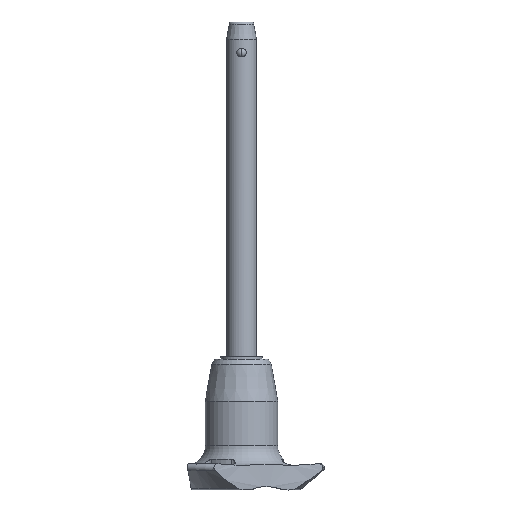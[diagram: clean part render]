
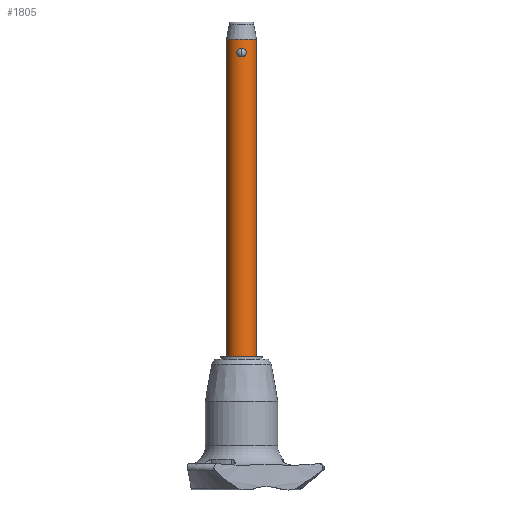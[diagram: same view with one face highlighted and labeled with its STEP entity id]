
A CAD part, front view. The second image highlights one B-rep face of the part: STEP entity #1805.
In plain terms, the highlighted cylindrical face has radius 3 mm (diameter 6 mm), a partial arc.
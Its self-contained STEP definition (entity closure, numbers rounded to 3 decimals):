
#24 = VERTEX_POINT ( 'NONE', #2113 ) ;
#68 = CARTESIAN_POINT ( 'NONE',  ( -0.46, -2.967, 0.101 ) ) ;
#155 = CARTESIAN_POINT ( 'NONE',  ( 0., 0., -60. ) ) ;
#156 = CARTESIAN_POINT ( 'NONE',  ( 0.937, -2.85, 0.744 ) ) ;
#175 = ORIENTED_EDGE ( 'NONE', *, *, #678, .F. ) ;
#247 = AXIS2_PLACEMENT_3D ( 'NONE', #155, #1060, #2348 ) ;
#300 = DIRECTION ( 'NONE',  ( 0., 0., -1. ) ) ;
#336 = CARTESIAN_POINT ( 'NONE',  ( 0.238, -2.993, 0.021 ) ) ;
#353 = CARTESIAN_POINT ( 'NONE',  ( 0.738, -2.909, 0.317 ) ) ;
#364 = CARTESIAN_POINT ( 'NONE',  ( 0.911, -2.859, 1.103 ) ) ;
#383 = ORIENTED_EDGE ( 'NONE', *, *, #731, .F. ) ;
#464 = CARTESIAN_POINT ( 'NONE',  ( 3., 0., -60. ) ) ;
#466 = CARTESIAN_POINT ( 'NONE',  ( -0.563, -2.948, 1.57 ) ) ;
#499 = CARTESIAN_POINT ( 'NONE',  ( -0.118, -3., 0. ) ) ;
#545 = CARTESIAN_POINT ( 'NONE',  ( 0.937, -2.85, 0.985 ) ) ;
#581 = CARTESIAN_POINT ( 'NONE',  ( -3., 0., -60. ) ) ;
#592 = DIRECTION ( 'NONE',  ( 1., 0., 0. ) ) ;
#678 = EDGE_CURVE ( 'NONE', #24, #2689, #883, .T. ) ;
#694 = CARTESIAN_POINT ( 'NONE',  ( -0.238, -2.993, 1.712 ) ) ;
#698 = CARTESIAN_POINT ( 'NONE',  ( 3., 0., 3.5 ) ) ;
#706 = CARTESIAN_POINT ( 'NONE',  ( -0.739, -2.909, 1.414 ) ) ;
#731 = EDGE_CURVE ( 'NONE', #1213, #1368, #1604, .T. ) ;
#740 = CARTESIAN_POINT ( 'NONE',  ( 0.118, -3., 0. ) ) ;
#765 = DIRECTION ( 'NONE',  ( 0., 0., 1. ) ) ;
#883 = B_SPLINE_CURVE_WITH_KNOTS ( 'NONE', 3,
 ( #2643, #740, #336, #1146, #1778, #353, #2457, #1820, #156, #545, #364, #1392, #1361, #954, #2667, #2442, #2210, #2238 ),
 .UNSPECIFIED., .F., .F.,
 ( 4, 2, 2, 2, 2, 2, 2, 2, 4 ),
 ( 0.003, 0.003, 0.004, 0.004, 0.004, 0.005, 0.005, 0.005, 0.006 ),
 .UNSPECIFIED. ) ;
#897 = CARTESIAN_POINT ( 'NONE',  ( -3., 0., -60. ) ) ;
#914 = EDGE_LOOP ( 'NONE', ( #1285, #175 ) ) ;
#954 = CARTESIAN_POINT ( 'NONE',  ( 0.564, -2.948, 1.57 ) ) ;
#993 = CIRCLE ( 'NONE', #2319, 3. ) ;
#998 = EDGE_LOOP ( 'NONE', ( #383, #1843, #2187, #1027 ) ) ;
#1016 = CARTESIAN_POINT ( 'NONE',  ( 0., 0., 3.5 ) ) ;
#1027 = ORIENTED_EDGE ( 'NONE', *, *, #1779, .T. ) ;
#1060 = DIRECTION ( 'NONE',  ( 0., 0., 1. ) ) ;
#1090 = CARTESIAN_POINT ( 'NONE',  ( -3., 0., 3.5 ) ) ;
#1096 = CARTESIAN_POINT ( 'NONE',  ( -0.74, -2.909, 0.318 ) ) ;
#1146 = CARTESIAN_POINT ( 'NONE',  ( 0.459, -2.967, 0.101 ) ) ;
#1153 = CARTESIAN_POINT ( 'NONE',  ( -0.12, -3., 1.732 ) ) ;
#1213 = VERTEX_POINT ( 'NONE', #897 ) ;
#1222 = EDGE_CURVE ( 'NONE', #2689, #24, #2660, .T. ) ;
#1285 = ORIENTED_EDGE ( 'NONE', *, *, #1222, .F. ) ;
#1301 = CARTESIAN_POINT ( 'NONE',  ( -0.937, -2.85, 0.986 ) ) ;
#1310 = CARTESIAN_POINT ( 'NONE',  ( 3., 0., -60. ) ) ;
#1338 = DIRECTION ( 'NONE',  ( 1., 0., 0. ) ) ;
#1343 = CARTESIAN_POINT ( 'NONE',  ( -0.91, -2.859, 1.105 ) ) ;
#1361 = CARTESIAN_POINT ( 'NONE',  ( 0.74, -2.909, 1.414 ) ) ;
#1368 = VERTEX_POINT ( 'NONE', #1090 ) ;
#1392 = CARTESIAN_POINT ( 'NONE',  ( 0.812, -2.888, 1.317 ) ) ;
#1439 = EDGE_CURVE ( 'NONE', #2485, #1658, #2544, .T. ) ;
#1520 = VECTOR ( 'NONE', #765, 1000. ) ;
#1524 = CARTESIAN_POINT ( 'NONE',  ( -0.911, -2.859, 0.63 ) ) ;
#1540 = CARTESIAN_POINT ( 'NONE',  ( -0.238, -2.993, 0.021 ) ) ;
#1553 = CARTESIAN_POINT ( 'NONE',  ( -0.811, -2.889, 1.319 ) ) ;
#1567 = CARTESIAN_POINT ( 'NONE',  ( 0., -3., 1.732 ) ) ;
#1603 = FACE_OUTER_BOUND ( 'NONE', #998, .T. ) ;
#1604 = LINE ( 'NONE', #581, #1520 ) ;
#1658 = VERTEX_POINT ( 'NONE', #698 ) ;
#1778 = CARTESIAN_POINT ( 'NONE',  ( 0.563, -2.948, 0.162 ) ) ;
#1779 = EDGE_CURVE ( 'NONE', #1658, #1368, #2363, .T. ) ;
#1794 = VECTOR ( 'NONE', #2566, 1000. ) ;
#1805 = ADVANCED_FACE ( 'NONE', ( #1603, #2441 ), #2028, .T. ) ;
#1820 = CARTESIAN_POINT ( 'NONE',  ( 0.91, -2.859, 0.626 ) ) ;
#1843 = ORIENTED_EDGE ( 'NONE', *, *, #2572, .F. ) ;
#1934 = CARTESIAN_POINT ( 'NONE',  ( -0.564, -2.948, 0.162 ) ) ;
#2028 = CYLINDRICAL_SURFACE ( 'NONE', #247, 3. ) ;
#2056 = DIRECTION ( 'NONE',  ( 0., 0., -1. ) ) ;
#2113 = CARTESIAN_POINT ( 'NONE',  ( 0., -3., 0. ) ) ;
#2143 = CARTESIAN_POINT ( 'NONE',  ( -0.812, -2.889, 0.414 ) ) ;
#2187 = ORIENTED_EDGE ( 'NONE', *, *, #1439, .T. ) ;
#2210 = CARTESIAN_POINT ( 'NONE',  ( 0.12, -3., 1.732 ) ) ;
#2238 = CARTESIAN_POINT ( 'NONE',  ( 0., -3., 1.732 ) ) ;
#2319 = AXIS2_PLACEMENT_3D ( 'NONE', #2635, #300, #1338 ) ;
#2348 = DIRECTION ( 'NONE',  ( 1., 0., 0. ) ) ;
#2363 = CIRCLE ( 'NONE', #2489, 3. ) ;
#2376 = CARTESIAN_POINT ( 'NONE',  ( 0., -3., 0. ) ) ;
#2416 = CARTESIAN_POINT ( 'NONE',  ( 0., -3., 1.732 ) ) ;
#2441 = FACE_BOUND ( 'NONE', #914, .T. ) ;
#2442 = CARTESIAN_POINT ( 'NONE',  ( 0.238, -2.993, 1.712 ) ) ;
#2457 = CARTESIAN_POINT ( 'NONE',  ( 0.811, -2.889, 0.412 ) ) ;
#2485 = VERTEX_POINT ( 'NONE', #464 ) ;
#2489 = AXIS2_PLACEMENT_3D ( 'NONE', #1016, #2056, #592 ) ;
#2544 = LINE ( 'NONE', #1310, #1794 ) ;
#2561 = CARTESIAN_POINT ( 'NONE',  ( -0.461, -2.967, 1.63 ) ) ;
#2566 = DIRECTION ( 'NONE',  ( 0., 0., 1. ) ) ;
#2572 = EDGE_CURVE ( 'NONE', #2485, #1213, #993, .T. ) ;
#2590 = CARTESIAN_POINT ( 'NONE',  ( -0.937, -2.85, 0.749 ) ) ;
#2635 = CARTESIAN_POINT ( 'NONE',  ( 0., 0., -60. ) ) ;
#2643 = CARTESIAN_POINT ( 'NONE',  ( 0., -3., 0. ) ) ;
#2660 = B_SPLINE_CURVE_WITH_KNOTS ( 'NONE', 3,
 ( #2416, #1153, #694, #2561, #466, #706, #1553, #1343, #1301, #2590, #1524, #2143, #1096, #1934, #68, #1540, #499, #2376 ),
 .UNSPECIFIED., .F., .F.,
 ( 4, 2, 2, 2, 2, 2, 2, 2, 4 ),
 ( 0., 0., 0.001, 0.001, 0.001, 0.002, 0.002, 0.002, 0.003 ),
 .UNSPECIFIED. ) ;
#2667 = CARTESIAN_POINT ( 'NONE',  ( 0.461, -2.966, 1.63 ) ) ;
#2689 = VERTEX_POINT ( 'NONE', #1567 ) ;
